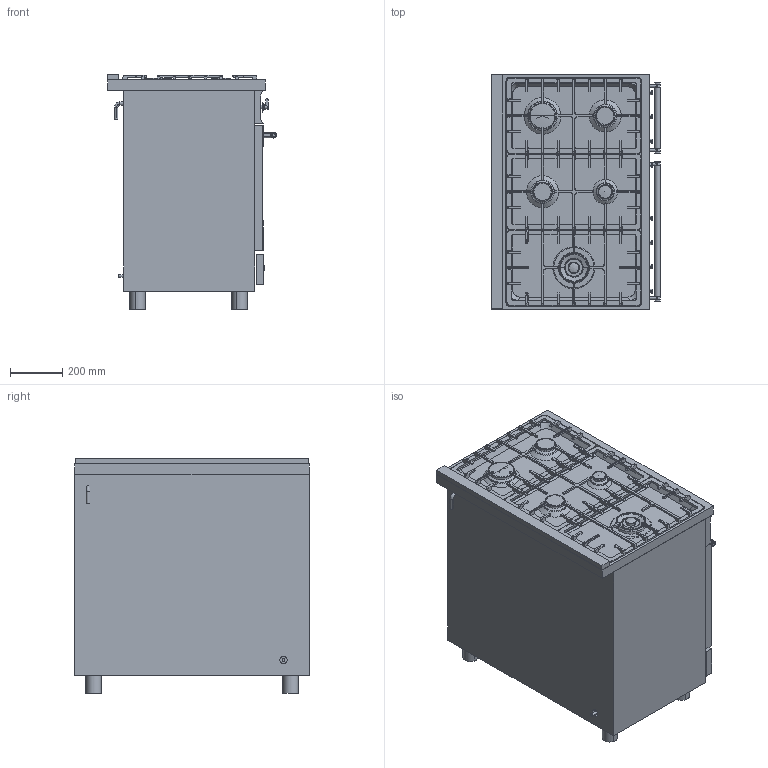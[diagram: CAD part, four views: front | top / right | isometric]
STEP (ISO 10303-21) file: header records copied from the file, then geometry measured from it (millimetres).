
FILE_DESCRIPTION(/* description */ ('Unknown'),/* implementation_level */ '2;1');
FILE_NAME(/* name */ 'C92GPX2',/* time_stamp */ '2025-04-16T11:24:17+02:00',/* author */ ('Unknown'),/* organization */ ('Unknown'),/* preprocessor_version */ 'ST-DEVELOPER v16.7',/* originating_system */ 'DEX',/* authorisation */ $);
FILE_SCHEMA (('AUTOMOTIVE_DESIGN {1 0 10303 214 3 1 1}'));
Products named in the file (1): C92GPX2
Bounding box: 646.49 x 898 x 898.62 mm (x, y, z)
Volume: 377909064.5 mm3; surface area: 7033331.5 mm2
Topology: 74 solids, 75 shells, 1333 faces, 3494 edges, 2335 vertices
Faces by surface type: plane 717, cylinder 406, bspline 189, cone 14, sphere 6, torus 1
Full cylindrical faces by diameter (mm): 8 x8, 8.5 x8, 8.828 x5, 8.863 x1, 10 x1, 13 x4, 13.5 x4, 14.995 x8, 22 x6, 28 x1, 55 x1, 65.5 x1, 75 x2, 85.5 x2, 110.5 x1, 113 x1
Entity records: 57866 total; most frequent: CARTESIAN_POINT 25843, ORIENTED_EDGE 6776, DIRECTION 5961, EDGE_CURVE 3388, VERTEX_POINT 2310, AXIS2_PLACEMENT_3D 2028, LINE 1905, VECTOR 1905
